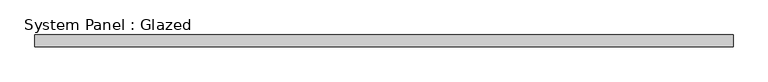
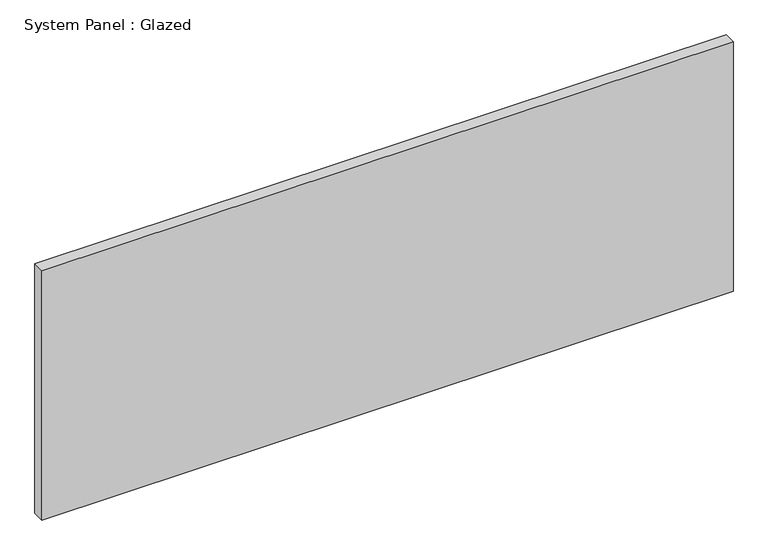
"""IFC4 building model written with IfcOpenShell, lengths in millimetres: plate geometry, System Panel : Glazed."""

from ifc_helpers import new_model, si_unit, origin, origin_with_axes, place, context, project, spatial, polyline, outline, extrude, source, transform, mapped, element, save


def system_panel_glazed_e9ed01da(model_context):
    return source(origin(), model_context, "Body", "SweptSolid", [
        extrude(outline(polyline([(749.3, -44.45), (-749.3, -44.45), (-749.3, -19.05), (749.3, -19.05), (749.3, -44.45)])), origin_with_axes(), (0.0, 0.0, 1.0), 571.5),
    ])


if __name__ == "__main__":
    model = new_model("IFC4")
    model_context = context("Model", 3, world=origin())
    ifc_project = project(units=[si_unit("LENGTHUNIT", "METRE", prefix="MILLI")], contexts=[model_context])
    site = spatial("IfcSite", under=ifc_project)
    building = spatial("IfcBuilding", under=site)
    placement = place(None, origin())
    system_panel_glazed_shape = system_panel_glazed_e9ed01da(model_context)
    element("IfcPlate", 1, ObjectType="System Panel : Glazed", at=placement, inside=building, context=model_context, shape_type="MappedRepresentation", body=[
        mapped(system_panel_glazed_shape, transform((0.0, 0.0, 0.0), x_axis=(1.0, 0.0, 0.0), y_axis=(0.0, 1.0, 0.0), z_axis=(0.0, 0.0, 1.0))),
    ])
    save(model, "model.ifc")
